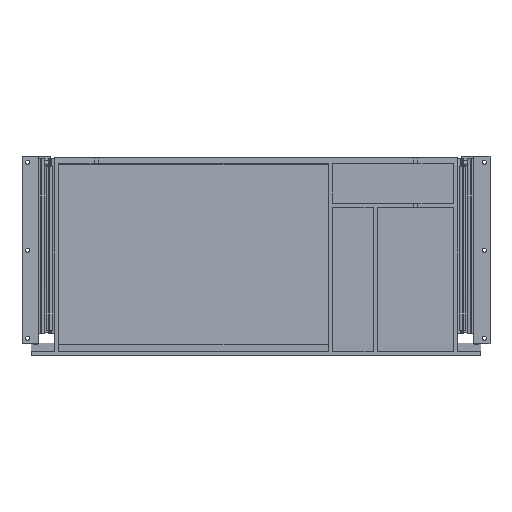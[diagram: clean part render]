
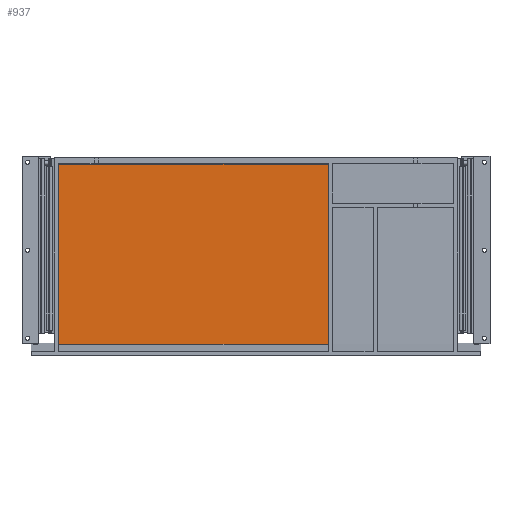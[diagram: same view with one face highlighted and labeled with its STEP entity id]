
A CAD part, top view. The second image highlights one B-rep face of the part: STEP entity #937.
In plain terms, the highlighted planar face has unit normal (0, 0, 1).
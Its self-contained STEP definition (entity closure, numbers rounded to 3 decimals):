
#937 = ADVANCED_FACE( '', ( #1902 ), #1903, .F. );
#1902 = FACE_OUTER_BOUND( '', #2979, .T. );
#1903 = PLANE( '', #2980 );
#2979 = EDGE_LOOP( '', ( #5069, #5070, #5071, #5072 ) );
#2980 = AXIS2_PLACEMENT_3D( '', #5073, #5074, #5075 );
#5069 = ORIENTED_EDGE( '', *, *, #6940, .T. );
#5070 = ORIENTED_EDGE( '', *, *, #7142, .F. );
#5071 = ORIENTED_EDGE( '', *, *, #7043, .F. );
#5072 = ORIENTED_EDGE( '', *, *, #7143, .T. );
#5073 = CARTESIAN_POINT( '', ( 25.3, 167.494, -9.5 ) );
#5074 = DIRECTION( '', ( 0., 0., -1. ) );
#5075 = DIRECTION( '', ( -1., 0., 0. ) );
#6940 = EDGE_CURVE( '', #8495, #8493, #8496, .T. );
#7043 = EDGE_CURVE( '', #8634, #8636, #8637, .T. );
#7142 = EDGE_CURVE( '', #8636, #8493, #8771, .T. );
#7143 = EDGE_CURVE( '', #8634, #8495, #8772, .T. );
#8493 = VERTEX_POINT( '', #10605 );
#8495 = VERTEX_POINT( '', #10608 );
#8496 = LINE( '', #10609, #10610 );
#8634 = VERTEX_POINT( '', #10807 );
#8636 = VERTEX_POINT( '', #10810 );
#8637 = LINE( '', #10811, #10812 );
#8771 = LINE( '', #10995, #10996 );
#8772 = LINE( '', #10997, #10998 );
#10605 = CARTESIAN_POINT( '', ( 359.3, -55.506, -9.5 ) );
#10608 = CARTESIAN_POINT( '', ( 25.3, -55.506, -9.5 ) );
#10609 = CARTESIAN_POINT( '', ( 25.3, -55.506, -9.5 ) );
#10610 = VECTOR( '', #12155, 1000. );
#10807 = CARTESIAN_POINT( '', ( 25.3, 167.494, -9.5 ) );
#10810 = CARTESIAN_POINT( '', ( 359.3, 167.494, -9.5 ) );
#10811 = CARTESIAN_POINT( '', ( 25.3, 167.494, -9.5 ) );
#10812 = VECTOR( '', #12252, 1000. );
#10995 = CARTESIAN_POINT( '', ( 359.3, 167.494, -9.5 ) );
#10996 = VECTOR( '', #12347, 1000. );
#10997 = CARTESIAN_POINT( '', ( 25.3, 167.494, -9.5 ) );
#10998 = VECTOR( '', #12348, 1000. );
#12155 = DIRECTION( '', ( 1., 0., 0. ) );
#12252 = DIRECTION( '', ( 1., 0., 0. ) );
#12347 = DIRECTION( '', ( 0., -1., 0. ) );
#12348 = DIRECTION( '', ( 0., -1., 0. ) );
